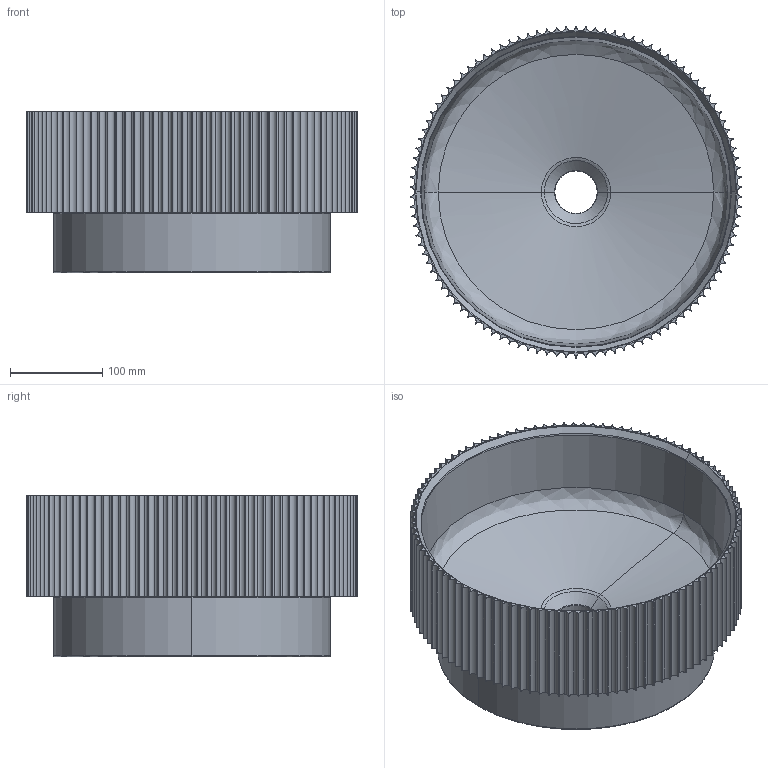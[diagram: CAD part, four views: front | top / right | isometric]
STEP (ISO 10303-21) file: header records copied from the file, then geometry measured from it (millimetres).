
FILE_DESCRIPTION(/* description */ (''),/* implementation_level */ '2;1');
FILE_NAME(/* name */ '00624_Mappi',/* time_stamp */ '2024-10-16T10:28:21+02:00',/* author */ (''),/* organization */ (''),/* preprocessor_version */ 'ST-DEVELOPER v19.2',/* originating_system */ 'Rhino 8.11',/* authorisation */ '');
FILE_SCHEMA (('CONFIG_CONTROL_DESIGN'));
Length unit declared in the file: millimetre
Products named in the file (1): Document
Bounding box: 359.86 x 360 x 175 mm (x, y, z)
Volume: 4149344.5 mm3; surface area: 720925.7 mm2
Topology: 2 solids, 2 shells, 384 faces, 1084 edges, 700 vertices
Faces by surface type: cylinder 326, bspline 46, plane 12
Entity records: 14761 total; most frequent: CARTESIAN_POINT 4893, ORIENTED_EDGE 2168, DIRECTION 1792, EDGE_CURVE 1084, AXIS2_PLACEMENT_3D 1065, TRIMMED_CURVE 725, CIRCLE 725, VERTEX_POINT 700
